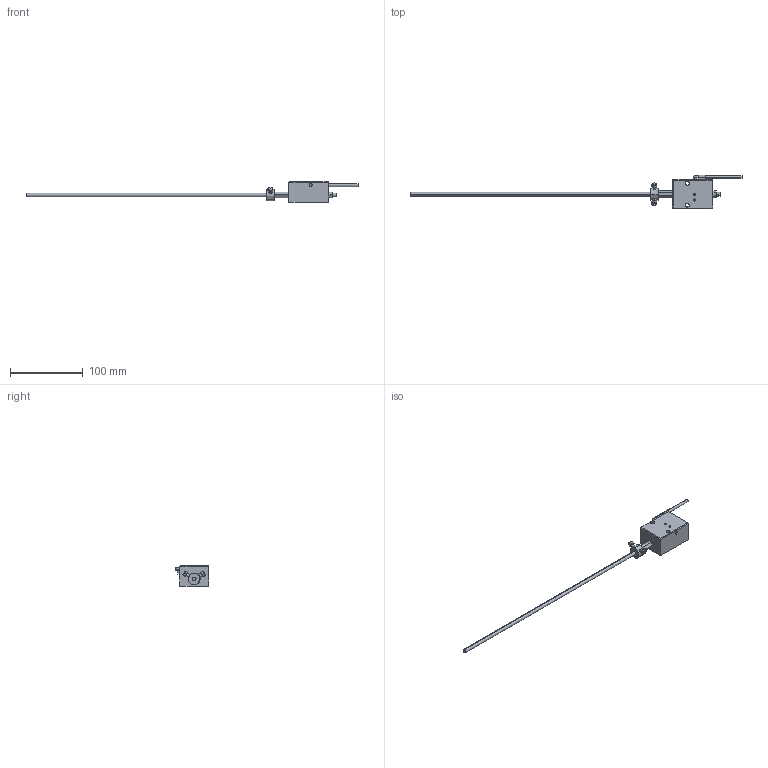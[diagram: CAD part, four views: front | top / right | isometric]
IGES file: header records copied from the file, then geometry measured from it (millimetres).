
Global section: file name: E:\UnigraphicsGraphicData\MISUMI_PRESS-PARTS\IGES\3d_mgua20_01855_r00.igs; native system: NX V5.0; preprocessor: UGS NX IGES V5.0; author: MISUMI; date: 20110105.161439; units: millimetre
Bounding box: 455 x 46 x 28 mm (x, y, z)
Surface area: 19192.9 mm2 (no closed solid volume)
Topology: 0 solids, 0 shells, 108 faces, 757 edges, 757 vertices
Faces by surface type: bspline 108
